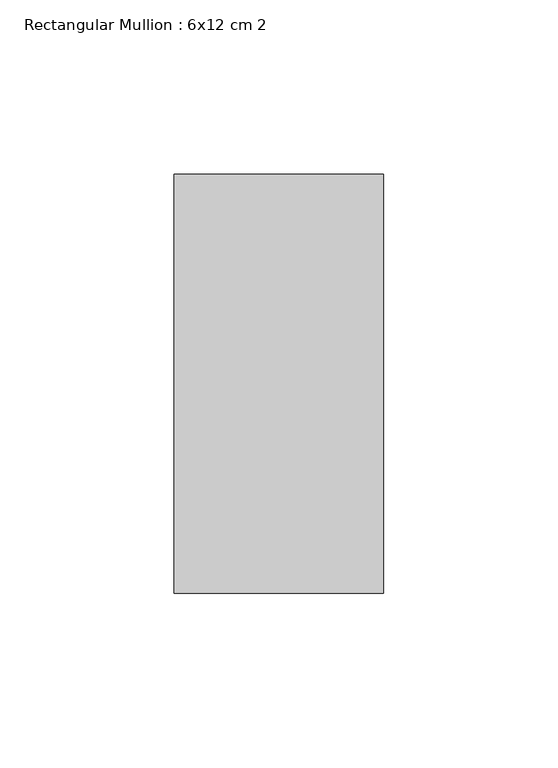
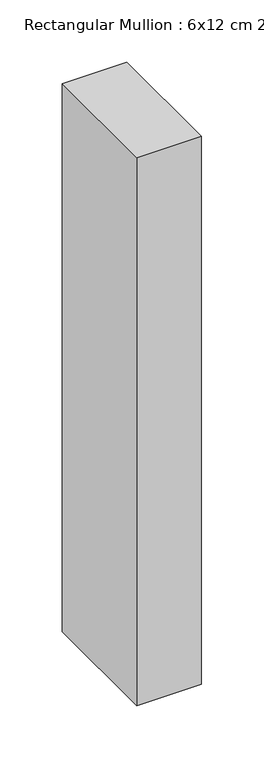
"""IFC4 building model written with IfcOpenShell, lengths in millimetres: member geometry, Rectangular Mullion : 6x12 cm 2."""

from ifc_helpers import new_model, si_unit, frame, origin, place, context, project, spatial, polyline, outline, extrude, source, transform, mapped, element, save


def rectangular_mullion_6x12_cm_2_f1a7de53(model_context):
    return source(origin(), model_context, "Body", "SweptSolid", [
        extrude(outline(polyline([(0.0, 205.0), (0.0, 85.0), (-60.0, 85.0), (-60.0, 205.0), (0.0, 205.0)])), frame((0.0, 0.0, -537.7630744), z_axis=(0.0, 0.0, 1.0), x_axis=(1.0, 0.0, 0.0)), (0.0, 0.0, 1.0), 537.7630744),
    ])


if __name__ == "__main__":
    model = new_model("IFC4")
    model_context = context("Model", 3, world=origin())
    ifc_project = project(units=[si_unit("LENGTHUNIT", "METRE", prefix="MILLI")], contexts=[model_context])
    site = spatial("IfcSite", under=ifc_project)
    building = spatial("IfcBuilding", under=site)
    placement = place(None, origin())
    rectangular_mullion_6x12_cm_2_shape = rectangular_mullion_6x12_cm_2_f1a7de53(model_context)
    element("IfcMember", 1, ObjectType="Rectangular Mullion : 6x12 cm 2", at=placement, inside=building, context=model_context, shape_type="MappedRepresentation", body=[
        mapped(rectangular_mullion_6x12_cm_2_shape, transform((0.0, 0.0, 0.0), x_axis=(1.0, 0.0, 0.0), y_axis=(0.0, 1.0, 0.0), z_axis=(0.0, 0.0, 1.0))),
    ])
    save(model, "model.ifc")
